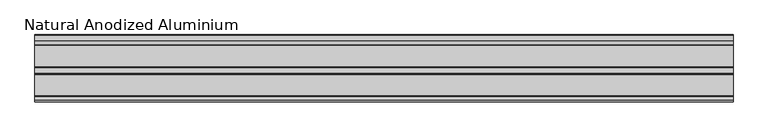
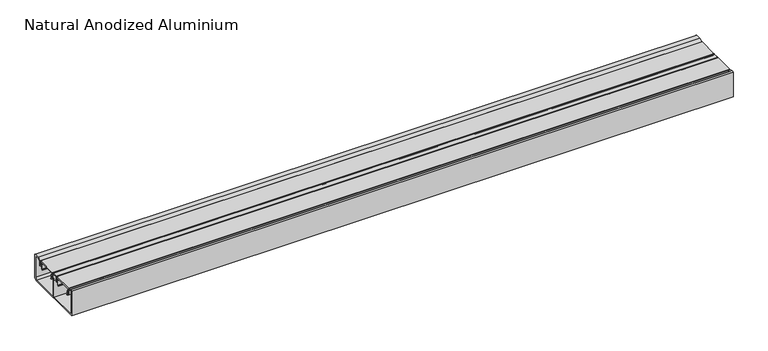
"""IFC4 building model written with IfcOpenShell, lengths in millimetres: proxy geometry, Electrical_Installations_Hager_GBA-Flat-Lid-End-Cap : Natural Anodized Aluminium."""

import ifcopenshell
import ifcopenshell.guid

model = None  # the IFC model being written
_history = None  # IfcOwnerHistory: only IFC2X3 demands one
_inside = {}  # id of a spatial element -> (the spatial element, [elements in it])
_under = {}  # id of a project, library or spatial element -> (it, [spatial elements below it])
_declared = {}  # id of a project -> (the project, [libraries it declares])
_typed = {}  # id of a type object -> (the type object, [elements of that type])
_made_of = {}  # id of a material, layer set ... -> (it, [elements and type objects made of it])


def new_model(schema):
    """Start an empty IFC model of exactly this schema.

    Asked for "IFC4X3", IfcOpenShell would pick the latest addendum, in which some entities
    have other attributes; the version numbers below select the first issue.
    IFC2X3 requires an IfcOwnerHistory on every rooted entity: one is made here for all.
    """
    global model, _history
    if schema == "IFC4X3":
        model = ifcopenshell.file(schema_version=(4, 3, 0, 0))
    else:
        model = ifcopenshell.file(schema=schema)
    _inside.clear()
    _under.clear()
    _declared.clear()
    _typed.clear()
    _made_of.clear()
    _history = None
    if model.schema == "IFC2X3":
        org = make("IfcOrganization", Name="unknown")
        user = make(
            "IfcPersonAndOrganization",
            ThePerson=make("IfcPerson", FamilyName="unknown"),
            TheOrganization=org,
        )
        app = make(
            "IfcApplication",
            ApplicationDeveloper=org,
            Version="unknown",
            ApplicationFullName="unknown",
            ApplicationIdentifier="unknown",
        )
        _history = make(
            "IfcOwnerHistory",
            OwningUser=user,
            OwningApplication=app,
            ChangeAction="ADDED",
            CreationDate=0,
        )
    return model


def make(cls, **values):
    """One entity of the class cls with the attributes given. An attribute that is None is left unset."""
    return model.create_entity(
        cls, **{name: value for name, value in values.items() if value is not None}
    )


def rooted(cls, **values):
    """An entity with a GlobalId (a new one), such as an element, a storey or a relation."""
    return make(cls, GlobalId=ifcopenshell.guid.new(), OwnerHistory=_history, **values)


def si_unit(unit_type, name, prefix=None):
    """IfcSIUnit, for example si_unit("LENGTHUNIT", "METRE", prefix="MILLI")."""
    return make("IfcSIUnit", UnitType=unit_type, Prefix=prefix, Name=name)


def assignment(units):
    """IfcUnitAssignment: the units of a project."""
    return None if units is None else make("IfcUnitAssignment", Units=units)


def point(xyz):
    """IfcCartesianPoint."""
    return None if xyz is None else make("IfcCartesianPoint", Coordinates=xyz)


def direction(xyz):
    """IfcDirection."""
    return None if xyz is None else make("IfcDirection", DirectionRatios=xyz)


def frame(location, z_axis=None, x_axis=None):
    """IfcAxis2Placement3D, a coordinate frame: its origin and axes. An axis left out is left unset."""
    return make(
        "IfcAxis2Placement3D",
        Location=point(location),
        Axis=direction(z_axis),
        RefDirection=direction(x_axis),
    )


def frame_2d(location, x_axis=None):
    """IfcAxis2Placement2D, a coordinate frame in the plane: its origin and x axis."""
    return make(
        "IfcAxis2Placement2D", Location=point(location), RefDirection=direction(x_axis)
    )


def origin():
    """The frame at (0, 0, 0) with its axes left unset."""
    return frame((0.0, 0.0, 0.0))


def place(relative_to, where):
    """IfcLocalPlacement: puts the frame where relative to a parent placement (None: the world)."""
    return make(
        "IfcLocalPlacement", PlacementRelTo=relative_to, RelativePlacement=where
    )


def context(
    kind, dimensions, precision=None, world=None, true_north=None, identifier=None
):
    """IfcGeometricRepresentationContext, for example the 3D "Model" context."""
    return make(
        "IfcGeometricRepresentationContext",
        ContextIdentifier=identifier,
        ContextType=kind,
        CoordinateSpaceDimension=dimensions,
        Precision=precision,
        WorldCoordinateSystem=world,
        TrueNorth=true_north,
    )


def project(units=None, contexts=None):
    """IfcProject with its units and contexts."""
    return rooted(
        "IfcProject",
        Name="project",
        RepresentationContexts=contexts,
        UnitsInContext=assignment(units),
    )


def spatial(cls, under=None, at=None, **own):
    """A site, building, storey or space (cls), placed at a placement, below another one or the project."""
    s = rooted(cls, ObjectPlacement=at, **own)
    if under is not None:
        _under.setdefault(under.id(), (under, []))[1].append(s)
    return s


def polyline(points):
    """IfcPolyline through the points."""
    return make("IfcPolyline", Points=[point(p) for p in points])


def circle_curve(where, radius):
    """IfcCircle in the frame where."""
    return make("IfcCircle", Position=where, Radius=radius)


def trimmed(basis, trim1, trim2, sense, master):
    """IfcTrimmedCurve: the piece of a basis curve between two trims."""
    return make(
        "IfcTrimmedCurve",
        BasisCurve=basis,
        Trim1=trim1,
        Trim2=trim2,
        SenseAgreement=sense,
        MasterRepresentation=master,
    )


def segment(curve, same_sense, transition):
    """IfcCompositeCurveSegment."""
    return make(
        "IfcCompositeCurveSegment",
        Transition=transition,
        SameSense=same_sense,
        ParentCurve=curve,
    )


def composite_curve(segments, self_intersect=None):
    """IfcCompositeCurve: segments joined end to end."""
    return make("IfcCompositeCurve", Segments=segments, SelfIntersect=self_intersect)


def outline(outer, holes=None, kind="AREA"):
    """IfcArbitraryClosedProfileDef: a profile drawn as a closed curve; with holes, ...WithVoids."""
    if holes is None:
        return make("IfcArbitraryClosedProfileDef", ProfileType=kind, OuterCurve=outer)
    return make(
        "IfcArbitraryProfileDefWithVoids",
        ProfileType=kind,
        OuterCurve=outer,
        InnerCurves=holes,
    )


def extrude(swept, where, along, depth):
    """IfcExtrudedAreaSolid: the profile swept, set in the frame where, extruded along a direction by depth."""
    return make(
        "IfcExtrudedAreaSolid",
        SweptArea=swept,
        Position=where,
        ExtrudedDirection=direction(along),
        Depth=depth,
    )


def shape(context_of_items, identifier, shape_type, items):
    """IfcShapeRepresentation: the items that make up one representation, for example the "Body"."""
    return make(
        "IfcShapeRepresentation",
        ContextOfItems=context_of_items,
        RepresentationIdentifier=identifier,
        RepresentationType=shape_type,
        Items=items,
    )


def source(mapping_origin, context_of_items, identifier, shape_type, items):
    """IfcRepresentationMap: a shape defined once, which mapped items show again and again."""
    return make(
        "IfcRepresentationMap",
        MappingOrigin=mapping_origin,
        MappedRepresentation=shape(context_of_items, identifier, shape_type, items),
    )


def transform(
    local_origin,
    x_axis=None,
    y_axis=None,
    z_axis=None,
    scale=None,
    scale2=None,
    scale3=None,
    uniform=True,
):
    """IfcCartesianTransformationOperator3D, or its non-uniform kind. x_axis, y_axis, z_axis: its Axis1, 2, 3."""
    if uniform:
        return make(
            "IfcCartesianTransformationOperator3D",
            Axis1=direction(x_axis),
            Axis2=direction(y_axis),
            LocalOrigin=point(local_origin),
            Scale=scale,
            Axis3=direction(z_axis),
        )
    return make(
        "IfcCartesianTransformationOperator3DnonUniform",
        Axis1=direction(x_axis),
        Axis2=direction(y_axis),
        LocalOrigin=point(local_origin),
        Scale=scale,
        Axis3=direction(z_axis),
        Scale2=scale2,
        Scale3=scale3,
    )


def mapped(mapping_source, mapping_target):
    """IfcMappedItem: shows the shape of a source again, moved by a transform."""
    return make(
        "IfcMappedItem", MappingSource=mapping_source, MappingTarget=mapping_target
    )


def made_of(thing, what):
    """Note that an element or type object is made of a material, layer set ...; save() writes the relation."""
    if what is not None:
        _made_of.setdefault(what.id(), (what, []))[1].append(thing)
    return thing


def element(
    cls,
    number,
    at=None,
    inside=None,
    cuts=None,
    type_object=None,
    material=None,
    context=None,
    identifier="Body",
    shape_type=None,
    held_by="IfcProductDefinitionShape",
    body=None,
    shapes=None,
    **own,
):
    """One element of the class cls, such as IfcWall. Its Tag is "e" and its number.

    at: its placement. inside: the storey or other place that contains it. cuts: it is an
    opening in that element (IfcRelVoidsElement). A single representation is given by context,
    identifier, shape_type and body (its items); several are given by shapes. held_by: the class
    of the entity that holds the representations. save() writes the other relations.
    """
    e = rooted(cls, Tag="e%d" % number, ObjectPlacement=at, **own)
    if body is not None:
        shapes = [shape(context, identifier, shape_type, body)]
    if shapes is not None:
        e.Representation = make(held_by, Representations=shapes)
    if inside is not None:
        _inside.setdefault(inside.id(), (inside, []))[1].append(e)
    if cuts is not None:
        rooted(
            "IfcRelVoidsElement", RelatingBuildingElement=cuts, RelatedOpeningElement=e
        )
    if type_object is not None:
        _typed.setdefault(type_object.id(), (type_object, []))[1].append(e)
    return made_of(e, material)


def aggregate(whole, parts):
    """IfcRelAggregates: a whole, such as a stair, and the parts it consists of."""
    return rooted("IfcRelAggregates", RelatingObject=whole, RelatedObjects=parts)


def save(model, path):
    """Write the relations noted so far, then the file.

    IfcRelAggregates (storeys below a building ...), IfcRelContainedInSpatialStructure (elements
    in a storey), IfcRelDefinesByType, IfcRelAssociatesMaterial and IfcRelDeclares: one each for
    every whole, place, type object, material and project.
    """
    for whole, parts in _under.values():
        aggregate(whole, parts)
    for where, things in _inside.values():
        rooted(
            "IfcRelContainedInSpatialStructure",
            RelatedElements=things,
            RelatingStructure=where,
        )
    for kind, things in _typed.values():
        rooted("IfcRelDefinesByType", RelatedObjects=things, RelatingType=kind)
    for what, things in _made_of.values():
        rooted("IfcRelAssociatesMaterial", RelatedObjects=things, RelatingMaterial=what)
    for by, libraries in _declared.values():
        rooted("IfcRelDeclares", RelatingContext=by, RelatedDefinitions=libraries)
    model.write(path)


def natural_anodized_aluminium_d1e92eb6(model_context):
    return source(origin(), model_context, "Body", "SweptSolid", [
        extrude(outline(composite_curve([segment(polyline([(-64.6976563, 54.0894343), (-64.6976563, 2.0), (-2.2476563, 2.0), (-2.2476563, 38.3324137), (-0.2476563, 49.6749773), (-0.2476563, 52.0), (-9.8476563, 52.0), (-9.8476563, 41.5012147), (-14.5382813, 41.5012147), (-14.5382813, 45.748101), (-13.5382813, 45.748101), (-13.5382813, 42.9887147), (-11.6476563, 42.9887147), (-11.6476563, 53.0031102)]), True, "CONTINUOUS"), segment(trimmed(circle_curve(frame_2d((-10.6507665, 53.0031102)), 0.9968898), [point((-11.6476563, 53.0031102))], [point((-10.6507665, 54.0))], False, "CARTESIAN"), True, "CONTINUOUS"), segment(polyline([(-10.6507665, 54.0), (0.7441474, 54.0)]), True, "CONTINUOUS"), segment(trimmed(circle_curve(frame_2d((0.7441474, 52.9918037)), 1.0081963), [point((0.7441474, 54.0))], [point((1.7523437, 52.9918037))], False, "CARTESIAN"), True, "CONTINUOUS"), segment(polyline([(1.7523437, 52.9918037), (1.7523437, 49.5), (0.6591165, 43.3), (3.2523437, 43.3), (3.2523437, 45.7537431), (4.2523437, 45.7537431), (4.2523437, 41.5), (0.3417279, 41.5), (-0.2476563, 38.1574364), (-0.2476563, 2.0), (60.5496526, 2.0), (64.5023437, 5.9526912), (64.5023437, 54.2), (54.8614746, 54.2), (48.5523437, 52.1500391), (48.5523437, 41.5), (44.2523437, 41.5), (44.2523437, 45.7556921), (45.2523437, 45.7556921), (45.2523437, 42.9887147), (46.7523437, 42.9887147), (46.7523437, 53.9835468), (54.4971904, 56.5), (64.8989144, 56.5)]), True, "CONTINUOUS"), segment(trimmed(circle_curve(frame_2d((64.8989144, 54.5965707)), 1.9034293), [point((64.8989144, 56.5))], [point((66.8023437, 54.5965707))], False, "CARTESIAN"), True, "CONTINUOUS"), segment(polyline([(66.8023437, 54.5965707), (66.8023437, 5.0), (61.8023437, 0.0), (-66.9976563, 0.0), (-66.9976563, 54.4045249)]), True, "CONTINUOUS"), segment(trimmed(circle_curve(frame_2d((-64.9278927, 54.4045249)), 2.0697636), [point((-66.9976563, 54.4045249))], [point((-64.2989994, 56.3764312))], False, "CARTESIAN"), True, "CONTINUOUS"), segment(polyline([(-64.2989994, 56.3764312), (-56.8429688, 53.998505), (-56.8429688, 42.9887147), (-54.6789063, 42.9887147), (-54.6789063, 45.7565885), (-53.6789063, 45.7565885), (-53.6789063, 41.5012147), (-58.4476563, 41.5012147), (-58.4476563, 52.0961433), (-64.6976563, 54.0894343)]), True, "CONTINUOUS")], self_intersect=False)), frame((0.0, 0.0, 0.0), z_axis=(1.0, 0.0, 0.0), x_axis=(0.0, 1.0, 0.0)), (0.0, 0.0, 1.0), 1387.5),
        extrude(outline(composite_curve([segment(polyline([(-13.1613464, 52.5816445), (-55.0613464, 52.5816445), (-55.0613464, 49.2816445), (-53.7229555, 49.2816445)]), True, "CONTINUOUS"), segment(trimmed(circle_curve(frame_2d((-53.7229555, 47.1700354)), 2.1116091), [point((-53.7229555, 49.2816445))], [point((-51.6113464, 47.1700354))], False, "CARTESIAN"), True, "CONTINUOUS"), segment(polyline([(-51.6113464, 47.1700354), (-51.6113464, 37.6816445), (-49.7113464, 37.6816445), (-49.7113464, 36.8816445), (-52.6113464, 36.8816445), (-52.6113464, 47.3262929)]), True, "CONTINUOUS"), segment(trimmed(circle_curve(frame_2d((-53.566698, 47.3262929)), 0.9553516), [point((-52.6113464, 47.3262929))], [point((-53.566698, 48.2816445))], True, "CARTESIAN"), True, "CONTINUOUS"), segment(polyline([(-53.566698, 48.2816445), (-55.3644879, 48.2816445), (-55.3644879, 43.8012242), (-56.3660339, 43.8012242), (-56.3660339, 53.0900381)]), True, "CONTINUOUS"), segment(trimmed(circle_curve(frame_2d((-55.456072, 53.0900381)), 0.9099619), [point((-56.3660339, 53.0900381))], [point((-55.456072, 54.0))], False, "CARTESIAN"), True, "CONTINUOUS"), segment(polyline([(-55.456072, 54.0), (-12.9820268, 54.0)]), True, "CONTINUOUS"), segment(trimmed(circle_curve(frame_2d((-12.9820268, 52.9918196)), 1.0081804), [point((-12.9820268, 54.0))], [point((-11.9738464, 52.9918196))], False, "CARTESIAN"), True, "CONTINUOUS"), segment(polyline([(-11.9738464, 52.9918196), (-11.9738464, 43.8012242), (-12.858205, 43.8012242), (-12.858205, 48.2816445), (-14.6025892, 48.2816445)]), True, "CONTINUOUS"), segment(trimmed(circle_curve(frame_2d((-14.6025892, 47.2728873)), 1.0087572), [point((-14.6025892, 48.2816445))], [point((-15.6113464, 47.2728873))], True, "CARTESIAN"), True, "CONTINUOUS"), segment(polyline([(-15.6113464, 47.2728873), (-15.6113464, 36.8816445), (-18.5113464, 36.8816445), (-18.5113464, 37.6816445), (-16.6113464, 37.6816445), (-16.6113464, 47.3197896)]), True, "CONTINUOUS"), segment(trimmed(circle_curve(frame_2d((-14.6494915, 47.3197896)), 1.9618549), [point((-16.6113464, 47.3197896))], [point((-14.6494915, 49.2816445))], False, "CARTESIAN"), True, "CONTINUOUS"), segment(polyline([(-14.6494915, 49.2816445), (-13.1613464, 49.2816445), (-13.1613464, 52.5816445)]), True, "CONTINUOUS")], self_intersect=False)), frame((0.0, 0.0, 0.0), z_axis=(1.0, 0.0, 0.0), x_axis=(0.0, 1.0, 0.0)), (0.0, 0.0, 1.0), 1387.5),
        extrude(outline(composite_curve([segment(polyline([(45.1923672, 52.5816445), (3.2923672, 52.5816445), (3.2923672, 49.2816445), (4.6307581, 49.2816445)]), True, "CONTINUOUS"), segment(trimmed(circle_curve(frame_2d((4.6307581, 47.1700354)), 2.1116091), [point((4.6307581, 49.2816445))], [point((6.7423672, 47.1700354))], False, "CARTESIAN"), True, "CONTINUOUS"), segment(polyline([(6.7423672, 47.1700354), (6.7423672, 37.6816445), (8.6423672, 37.6816445), (8.6423672, 36.8816445), (5.7423672, 36.8816445), (5.7423672, 47.3262929)]), True, "CONTINUOUS"), segment(trimmed(circle_curve(frame_2d((4.7870156, 47.3262929)), 0.9553516), [point((5.7423672, 47.3262929))], [point((4.7870156, 48.2816445))], True, "CARTESIAN"), True, "CONTINUOUS"), segment(polyline([(4.7870156, 48.2816445), (2.9892258, 48.2816445), (2.9892258, 43.8231023), (1.9876797, 43.8231023), (1.9876797, 53.0900381)]), True, "CONTINUOUS"), segment(trimmed(circle_curve(frame_2d((2.8976417, 53.0900381)), 0.9099619), [point((1.9876797, 53.0900381))], [point((2.8976417, 54.0))], False, "CARTESIAN"), True, "CONTINUOUS"), segment(polyline([(2.8976417, 54.0), (45.3716869, 54.0)]), True, "CONTINUOUS"), segment(trimmed(circle_curve(frame_2d((45.3716869, 52.9918196)), 1.0081804), [point((45.3716869, 54.0))], [point((46.3798672, 52.9918196))], False, "CARTESIAN"), True, "CONTINUOUS"), segment(polyline([(46.3798672, 52.9918196), (46.3798672, 43.9733035), (45.4955087, 43.9733035), (45.4955087, 48.2816445), (43.7511244, 48.2816445)]), True, "CONTINUOUS"), segment(trimmed(circle_curve(frame_2d((43.7511244, 47.2728873)), 1.0087572), [point((43.7511244, 48.2816445))], [point((42.7423672, 47.2728873))], True, "CARTESIAN"), True, "CONTINUOUS"), segment(polyline([(42.7423672, 47.2728873), (42.7423672, 36.8816445), (39.8423672, 36.8816445), (39.8423672, 37.6816445), (41.7423672, 37.6816445), (41.7423672, 47.3197896)]), True, "CONTINUOUS"), segment(trimmed(circle_curve(frame_2d((43.7042221, 47.3197896)), 1.9618549), [point((41.7423672, 47.3197896))], [point((43.7042221, 49.2816445))], False, "CARTESIAN"), True, "CONTINUOUS"), segment(polyline([(43.7042221, 49.2816445), (45.1923672, 49.2816445), (45.1923672, 52.5816445)]), True, "CONTINUOUS")], self_intersect=False)), frame((0.0, 0.0, 0.0), z_axis=(1.0, 0.0, 0.0), x_axis=(0.0, 1.0, 0.0)), (0.0, 0.0, 1.0), 1387.5),
    ])


if __name__ == "__main__":
    model = new_model("IFC4")
    model_context = context("Model", 3, world=origin())
    ifc_project = project(units=[si_unit("LENGTHUNIT", "METRE", prefix="MILLI")], contexts=[model_context])
    site = spatial("IfcSite", under=ifc_project)
    building = spatial("IfcBuilding", under=site)
    placement = place(None, origin())
    natural_anodized_aluminium_shape = natural_anodized_aluminium_d1e92eb6(model_context)
    element("IfcBuildingElementProxy", 1, Name="Electrical_Installations_Hager_GBA-Flat-Lid-End-Cap : Natural Anodized Aluminium", ObjectType="Electrical_Installations_Hager_GBA-Flat-Lid-End-Cap : Natural Anodized Aluminium", at=placement, inside=building, context=model_context, shape_type="MappedRepresentation", body=[
        mapped(natural_anodized_aluminium_shape, transform((0.0, 0.0, 0.0), x_axis=(1.0, 0.0, 0.0), y_axis=(0.0, 1.0, 0.0), z_axis=(0.0, 0.0, 1.0))),
    ])
    save(model, "model.ifc")
